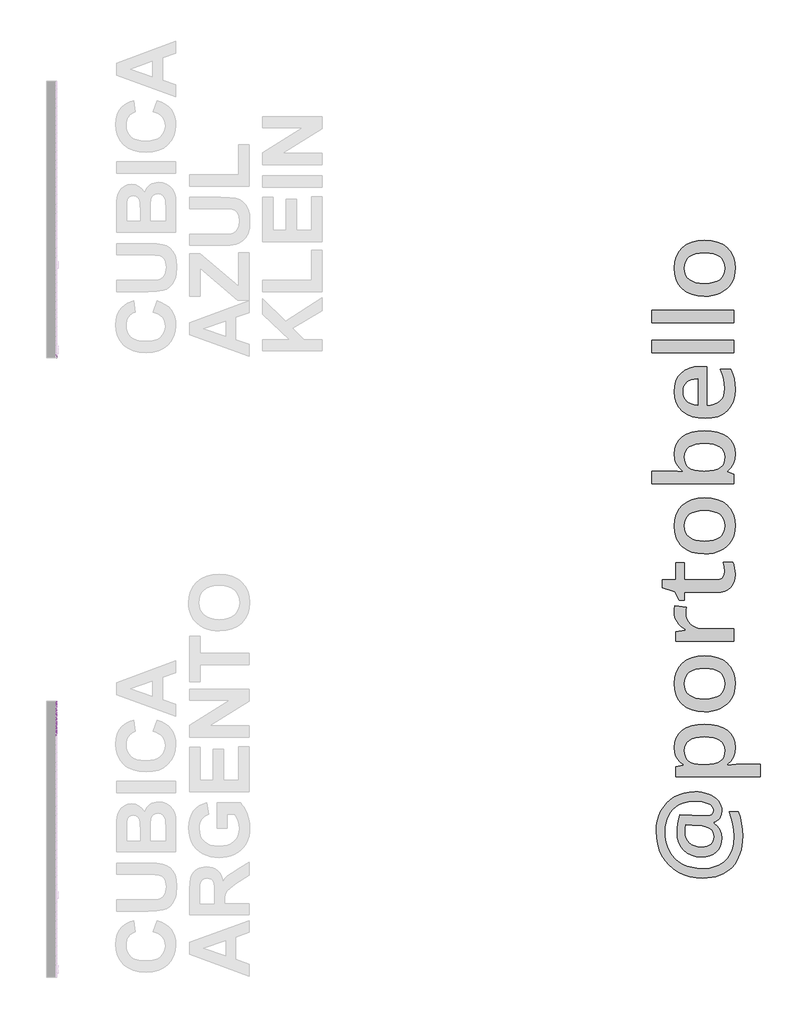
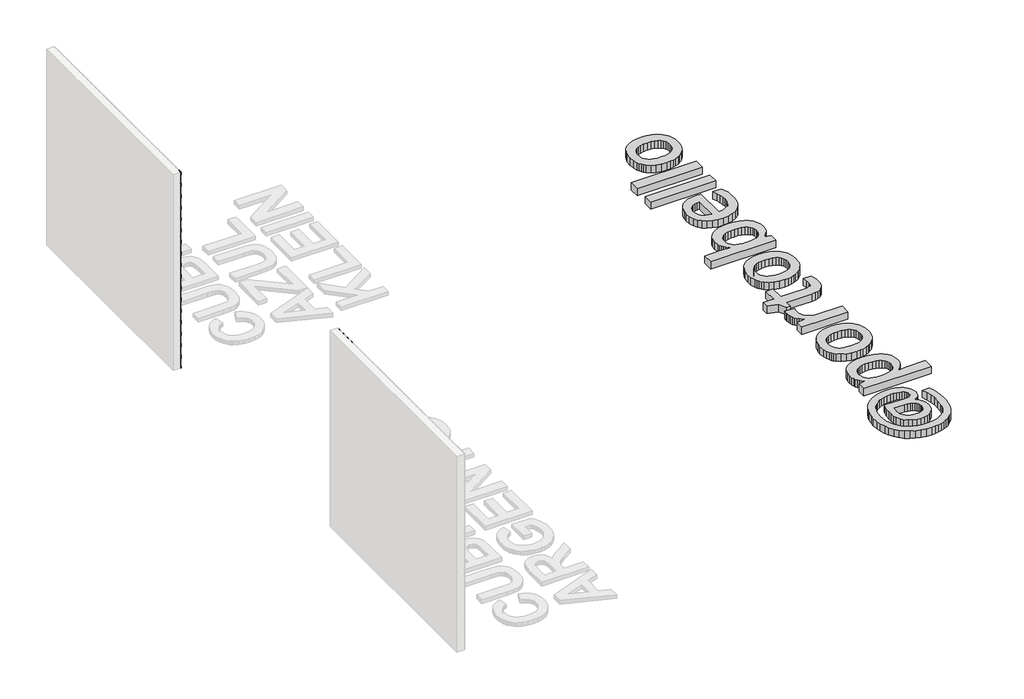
# One storey, part 25 of 121: 80 proxies.
"""IFC4 building model written with IfcOpenShell, lengths in millimetres."""

from ifc_helpers import new_model, si_unit, origin, origin_with_axes, place, context, project, spatial, polyline, outline, extrude, transform, mapped, element, save
from components import generic_models_b2b2c5c1, generic_models_b652511d, generic_models_39246dda, generic_models_5d175859, generic_models_45888c4d, generic_models_65d4feed, generic_models_eac52c18, generic_models_021229c9

model = new_model("IFC4")

# Units and contexts
model_context = context("Model", 3, world=origin())
ifc_project = project(units=[si_unit("LENGTHUNIT", "METRE", prefix="MILLI")], contexts=[model_context])

# Site, building, storey
site = spatial("IfcSite", under=ifc_project)
building = spatial("IfcBuilding", under=site)
storey = spatial("IfcBuildingStorey", under=building, Name="PORTOBELLO - SHOWROOM", Elevation=0.0)

# Proxies
placement = place(None, origin())
generic_models_shape = generic_models_b2b2c5c1(model_context)
element("IfcBuildingElementProxy", 1, Name="PBSHOP - CUBICA AZUL KLEIN 4,8X8,3 : CUBICA AZUL KLEIN - POSIÇÃO 01", ObjectType="PBSHOP - CUBICA AZUL KLEIN 4,8X8,3 : CUBICA AZUL KLEIN - POSIÇÃO 01", at=placement, inside=storey, context=model_context, shape_type="MappedRepresentation", body=[
    mapped(generic_models_shape, transform((150369.5341846, -3.4522544, 39.4221668), x_axis=(0.0, 1.0, 0.0), y_axis=(0.0, 0.0, 1.0), z_axis=(1.0, 0.0, 0.0))),
])
element("IfcBuildingElementProxy", 2, Name="PBSHOP - CUBICA AZUL KLEIN 4,8X8,3 : CUBICA AZUL KLEIN - POSIÇÃO 01", ObjectType="PBSHOP - CUBICA AZUL KLEIN 4,8X8,3 : CUBICA AZUL KLEIN - POSIÇÃO 01", at=placement, inside=storey, context=model_context, shape_type="MappedRepresentation", body=[
    mapped(generic_models_shape, transform((150369.5341846, 87.3870148, 39.4221668), x_axis=(0.0, 1.0, 0.0), y_axis=(0.0, 0.0, 1.0), z_axis=(1.0, 0.0, 0.0))),
])
element("IfcBuildingElementProxy", 3, Name="PBSHOP - CUBICA AZUL KLEIN 4,8X8,3 : CUBICA AZUL KLEIN - POSIÇÃO 01", ObjectType="PBSHOP - CUBICA AZUL KLEIN 4,8X8,3 : CUBICA AZUL KLEIN - POSIÇÃO 01", at=placement, inside=storey, context=model_context, shape_type="MappedRepresentation", body=[
    mapped(generic_models_shape, transform((150369.5341846, 178.2262841, 39.4221668), x_axis=(0.0, 1.0, 0.0), y_axis=(0.0, 0.0, 1.0), z_axis=(1.0, 0.0, 0.0))),
])
element("IfcBuildingElementProxy", 4, Name="PBSHOP - CUBICA AZUL KLEIN 4,8X8,3 : CUBICA AZUL KLEIN - POSIÇÃO 01", ObjectType="PBSHOP - CUBICA AZUL KLEIN 4,8X8,3 : CUBICA AZUL KLEIN - POSIÇÃO 01", at=placement, inside=storey, context=model_context, shape_type="MappedRepresentation", body=[
    mapped(generic_models_shape, transform((150369.5341846, 269.0655533, 39.4221668), x_axis=(0.0, 1.0, 0.0), y_axis=(0.0, 0.0, 1.0), z_axis=(1.0, 0.0, 0.0))),
])
element("IfcBuildingElementProxy", 5, Name="PBSHOP - CUBICA AZUL KLEIN 4,8X8,3 : CUBICA AZUL KLEIN - POSIÇÃO 01", ObjectType="PBSHOP - CUBICA AZUL KLEIN 4,8X8,3 : CUBICA AZUL KLEIN - POSIÇÃO 01", at=placement, inside=storey, context=model_context, shape_type="MappedRepresentation", body=[
    mapped(generic_models_shape, transform((150369.5341846, 359.9048225, 39.4221668), x_axis=(0.0, 1.0, 0.0), y_axis=(0.0, 0.0, 1.0), z_axis=(1.0, 0.0, 0.0))),
])
element("IfcBuildingElementProxy", 6, Name="PBSHOP - CUBICA AZUL KLEIN 4,8X8,3 : CUBICA AZUL KLEIN - POSIÇÃO 01", ObjectType="PBSHOP - CUBICA AZUL KLEIN 4,8X8,3 : CUBICA AZUL KLEIN - POSIÇÃO 01", at=placement, inside=storey, context=model_context, shape_type="MappedRepresentation", body=[
    mapped(generic_models_shape, transform((150369.5341846, 450.7440918, 39.4221668), x_axis=(0.0, 1.0, 0.0), y_axis=(0.0, 0.0, 1.0), z_axis=(1.0, 0.0, 0.0))),
])
element("IfcBuildingElementProxy", 7, Name="PBSHOP - CUBICA AZUL KLEIN 4,8X8,3 : CUBICA AZUL KLEIN - POSIÇÃO 01", ObjectType="PBSHOP - CUBICA AZUL KLEIN 4,8X8,3 : CUBICA AZUL KLEIN - POSIÇÃO 01", at=placement, inside=storey, context=model_context, shape_type="MappedRepresentation", body=[
    mapped(generic_models_shape, transform((150369.5341846, 541.583361, 39.4221668), x_axis=(0.0, 1.0, 0.0), y_axis=(0.0, 0.0, 1.0), z_axis=(1.0, 0.0, 0.0))),
])
element("IfcBuildingElementProxy", 8, Name="PBSHOP - CUBICA AZUL KLEIN 4,8X8,3 : CUBICA AZUL KLEIN - POSIÇÃO 01", ObjectType="PBSHOP - CUBICA AZUL KLEIN 4,8X8,3 : CUBICA AZUL KLEIN - POSIÇÃO 01", at=placement, inside=storey, context=model_context, shape_type="MappedRepresentation", body=[
    mapped(generic_models_shape, transform((150369.5341846, 632.4226303, 39.4221668), x_axis=(0.0, 1.0, 0.0), y_axis=(0.0, 0.0, 1.0), z_axis=(1.0, 0.0, 0.0))),
])
element("IfcBuildingElementProxy", 9, Name="PBSHOP - CUBICA AZUL KLEIN 4,8X8,3 : CUBICA AZUL KLEIN - POSIÇÃO 01", ObjectType="PBSHOP - CUBICA AZUL KLEIN 4,8X8,3 : CUBICA AZUL KLEIN - POSIÇÃO 01", at=placement, inside=storey, context=model_context, shape_type="MappedRepresentation", body=[
    mapped(generic_models_shape, transform((150369.5341846, 723.2618995, 39.4221668), x_axis=(0.0, 1.0, 0.0), y_axis=(0.0, 0.0, 1.0), z_axis=(1.0, 0.0, 0.0))),
])
element("IfcBuildingElementProxy", 10, Name="PBSHOP - CUBICA AZUL KLEIN 4,8X8,3 : CUBICA AZUL KLEIN - POSIÇÃO 01", ObjectType="PBSHOP - CUBICA AZUL KLEIN 4,8X8,3 : CUBICA AZUL KLEIN - POSIÇÃO 01", at=placement, inside=storey, context=model_context, shape_type="MappedRepresentation", body=[
    mapped(generic_models_shape, transform((150369.5341846, 814.1011688, 39.4221668), x_axis=(0.0, 1.0, 0.0), y_axis=(0.0, 0.0, 1.0), z_axis=(1.0, 0.0, 0.0))),
])
element("IfcBuildingElementProxy", 11, Name="PBSHOP - CUBICA AZUL KLEIN 4,8X8,3 : CUBICA AZUL KLEIN - POSIÇÃO 01", ObjectType="PBSHOP - CUBICA AZUL KLEIN 4,8X8,3 : CUBICA AZUL KLEIN - POSIÇÃO 01", at=placement, inside=storey, context=model_context, shape_type="MappedRepresentation", body=[
    mapped(generic_models_shape, transform((150369.5341846, 904.940438, 39.4221668), x_axis=(0.0, 1.0, 0.0), y_axis=(0.0, 0.0, 1.0), z_axis=(1.0, 0.0, 0.0))),
])
element("IfcBuildingElementProxy", 12, Name="PBSHOP - CUBICA AZUL KLEIN 4,8X8,3 : CUBICA AZUL KLEIN - POSIÇÃO 01", ObjectType="PBSHOP - CUBICA AZUL KLEIN 4,8X8,3 : CUBICA AZUL KLEIN - POSIÇÃO 01", at=placement, inside=storey, context=model_context, shape_type="MappedRepresentation", body=[
    mapped(generic_models_shape, transform((150369.5341846, 995.7797073, 39.4221668), x_axis=(0.0, 1.0, 0.0), y_axis=(0.0, 0.0, 1.0), z_axis=(1.0, 0.0, 0.0))),
])
element("IfcBuildingElementProxy", 13, Name="PBSHOP - CUBICA AZUL KLEIN 4,8X8,3 : CUBICA AZUL KLEIN - POSIÇÃO 01", ObjectType="PBSHOP - CUBICA AZUL KLEIN 4,8X8,3 : CUBICA AZUL KLEIN - POSIÇÃO 01", at=placement, inside=storey, context=model_context, shape_type="MappedRepresentation", body=[
    mapped(generic_models_shape, transform((150369.5341846, -3.4522544, 197.2914436), x_axis=(0.0, 1.0, 0.0), y_axis=(0.0, 0.0, 1.0), z_axis=(1.0, 0.0, 0.0))),
])
element("IfcBuildingElementProxy", 14, Name="PBSHOP - CUBICA AZUL KLEIN 4,8X8,3 : CUBICA AZUL KLEIN - POSIÇÃO 01", ObjectType="PBSHOP - CUBICA AZUL KLEIN 4,8X8,3 : CUBICA AZUL KLEIN - POSIÇÃO 01", at=placement, inside=storey, context=model_context, shape_type="MappedRepresentation", body=[
    mapped(generic_models_shape, transform((150369.5341846, -3.4522544, 355.1607203), x_axis=(0.0, 1.0, 0.0), y_axis=(0.0, 0.0, 1.0), z_axis=(1.0, 0.0, 0.0))),
])
element("IfcBuildingElementProxy", 15, Name="PBSHOP - CUBICA AZUL KLEIN 4,8X8,3 : CUBICA AZUL KLEIN - POSIÇÃO 01", ObjectType="PBSHOP - CUBICA AZUL KLEIN 4,8X8,3 : CUBICA AZUL KLEIN - POSIÇÃO 01", at=placement, inside=storey, context=model_context, shape_type="MappedRepresentation", body=[
    mapped(generic_models_shape, transform((150369.5341846, -3.4522544, 513.0299971), x_axis=(0.0, 1.0, 0.0), y_axis=(0.0, 0.0, 1.0), z_axis=(1.0, 0.0, 0.0))),
])
element("IfcBuildingElementProxy", 16, Name="PBSHOP - CUBICA AZUL KLEIN 4,8X8,3 : CUBICA AZUL KLEIN - POSIÇÃO 01", ObjectType="PBSHOP - CUBICA AZUL KLEIN 4,8X8,3 : CUBICA AZUL KLEIN - POSIÇÃO 01", at=placement, inside=storey, context=model_context, shape_type="MappedRepresentation", body=[
    mapped(generic_models_shape, transform((150369.5341846, -3.4522544, 670.8992738), x_axis=(0.0, 1.0, 0.0), y_axis=(0.0, 0.0, 1.0), z_axis=(1.0, 0.0, 0.0))),
])
element("IfcBuildingElementProxy", 17, Name="PBSHOP - CUBICA AZUL KLEIN 4,8X8,3 : CUBICA AZUL KLEIN - POSIÇÃO 01", ObjectType="PBSHOP - CUBICA AZUL KLEIN 4,8X8,3 : CUBICA AZUL KLEIN - POSIÇÃO 01", at=placement, inside=storey, context=model_context, shape_type="MappedRepresentation", body=[
    mapped(generic_models_shape, transform((150369.5341846, -3.4522544, 828.7685506), x_axis=(0.0, 1.0, 0.0), y_axis=(0.0, 0.0, 1.0), z_axis=(1.0, 0.0, 0.0))),
])
element("IfcBuildingElementProxy", 18, Name="PBSHOP - CUBICA AZUL KLEIN 4,8X8,3 : CUBICA AZUL KLEIN - POSIÇÃO 01", ObjectType="PBSHOP - CUBICA AZUL KLEIN 4,8X8,3 : CUBICA AZUL KLEIN - POSIÇÃO 01", at=placement, inside=storey, context=model_context, shape_type="MappedRepresentation", body=[
    mapped(generic_models_shape, transform((150369.5341846, -3.4522544, 986.6378273), x_axis=(0.0, 1.0, 0.0), y_axis=(0.0, 0.0, 1.0), z_axis=(1.0, 0.0, 0.0))),
])
element("IfcBuildingElementProxy", 19, Name="PBSHOP - CUBICA AZUL KLEIN 4,8X8,3 : CUBICA AZUL KLEIN - POSIÇÃO 01", ObjectType="PBSHOP - CUBICA AZUL KLEIN 4,8X8,3 : CUBICA AZUL KLEIN - POSIÇÃO 01", at=placement, inside=storey, context=model_context, shape_type="MappedRepresentation", body=[
    mapped(generic_models_shape, transform((150369.5341846, -3.4522544, 1144.507104), x_axis=(0.0, 1.0, 0.0), y_axis=(0.0, 0.0, 1.0), z_axis=(1.0, 0.0, 0.0))),
])
element("IfcBuildingElementProxy", 20, Name="PBSHOP - CUBICA AZUL KLEIN 4,8X8,3 : CUBICA AZUL KLEIN - POSIÇÃO 01", ObjectType="PBSHOP - CUBICA AZUL KLEIN 4,8X8,3 : CUBICA AZUL KLEIN - POSIÇÃO 01", at=placement, inside=storey, context=model_context, shape_type="MappedRepresentation", body=[
    mapped(generic_models_shape, transform((150369.5341846, -3.4522544, 1302.3763808), x_axis=(0.0, 1.0, 0.0), y_axis=(0.0, 0.0, 1.0), z_axis=(1.0, 0.0, 0.0))),
])
element("IfcBuildingElementProxy", 21, Name="PBSHOP - CUBICA AZUL KLEIN 4,8X8,3 : CUBICA AZUL KLEIN - POSIÇÃO 01", ObjectType="PBSHOP - CUBICA AZUL KLEIN 4,8X8,3 : CUBICA AZUL KLEIN - POSIÇÃO 01", at=placement, inside=storey, context=model_context, shape_type="MappedRepresentation", body=[
    mapped(generic_models_shape, transform((150369.5341846, -3.4522544, 1460.2456575), x_axis=(0.0, 1.0, 0.0), y_axis=(0.0, 0.0, 1.0), z_axis=(1.0, 0.0, 0.0))),
])
element("IfcBuildingElementProxy", 22, Name="PBSHOP - CUBICA AZUL KLEIN 4,8X8,3 : CUBICA AZUL KLEIN - POSIÇÃO 01", ObjectType="PBSHOP - CUBICA AZUL KLEIN 4,8X8,3 : CUBICA AZUL KLEIN - POSIÇÃO 01", at=placement, inside=storey, context=model_context, shape_type="MappedRepresentation", body=[
    mapped(generic_models_shape, transform((150369.5341846, -3.4522544, 1618.1149343), x_axis=(0.0, 1.0, 0.0), y_axis=(0.0, 0.0, 1.0), z_axis=(1.0, 0.0, 0.0))),
])
element("IfcBuildingElementProxy", 23, Name="PBSHOP - CUBICA AZUL KLEIN 4,8X8,3 : CUBICA AZUL KLEIN - POSIÇÃO 01", ObjectType="PBSHOP - CUBICA AZUL KLEIN 4,8X8,3 : CUBICA AZUL KLEIN - POSIÇÃO 01", at=placement, inside=storey, context=model_context, shape_type="MappedRepresentation", body=[
    mapped(generic_models_shape, transform((150369.5341846, -3.4522544, 1775.984211), x_axis=(0.0, 1.0, 0.0), y_axis=(0.0, 0.0, 1.0), z_axis=(1.0, 0.0, 0.0))),
])
element("IfcBuildingElementProxy", 24, Name="PBSHOP - CUBICA AZUL KLEIN 4,8X8,3 : CUBICA AZUL KLEIN - POSIÇÃO 01", ObjectType="PBSHOP - CUBICA AZUL KLEIN 4,8X8,3 : CUBICA AZUL KLEIN - POSIÇÃO 01", at=placement, inside=storey, context=model_context, shape_type="MappedRepresentation", body=[
    mapped(generic_models_shape, transform((150369.5341846, -3.4522544, 1933.8534878), x_axis=(0.0, 1.0, 0.0), y_axis=(0.0, 0.0, 1.0), z_axis=(1.0, 0.0, 0.0))),
])
element("IfcBuildingElementProxy", 25, Name="PBSHOP - CUBICA AZUL KLEIN 4,8X8,3 : CUBICA AZUL KLEIN - POSIÇÃO 01", ObjectType="PBSHOP - CUBICA AZUL KLEIN 4,8X8,3 : CUBICA AZUL KLEIN - POSIÇÃO 01", at=placement, inside=storey, context=model_context, shape_type="MappedRepresentation", body=[
    mapped(generic_models_shape, transform((150369.5341846, -3.4522544, 2091.7227645), x_axis=(0.0, 1.0, 0.0), y_axis=(0.0, 0.0, 1.0), z_axis=(1.0, 0.0, 0.0))),
])
element("IfcBuildingElementProxy", 26, Name="PBSHOP - CUBICA AZUL KLEIN 4,8X8,3 : CUBICA AZUL KLEIN - POSIÇÃO 01", ObjectType="PBSHOP - CUBICA AZUL KLEIN 4,8X8,3 : CUBICA AZUL KLEIN - POSIÇÃO 01", at=placement, inside=storey, context=model_context, shape_type="MappedRepresentation", body=[
    mapped(generic_models_shape, transform((150369.5341846, -3.4522544, 2249.5920413), x_axis=(0.0, 1.0, 0.0), y_axis=(0.0, 0.0, 1.0), z_axis=(1.0, 0.0, 0.0))),
])
element("IfcBuildingElementProxy", 27, Name="PBSHOP - CUBICA AZUL KLEIN 4,8X8,3 : CUBICA AZUL KLEIN - POSIÇÃO 01", ObjectType="PBSHOP - CUBICA AZUL KLEIN 4,8X8,3 : CUBICA AZUL KLEIN - POSIÇÃO 01", at=placement, inside=storey, context=model_context, shape_type="MappedRepresentation", body=[
    mapped(generic_models_shape, transform((150369.5341846, -3.4522544, 2407.461318), x_axis=(0.0, 1.0, 0.0), y_axis=(0.0, 0.0, 1.0), z_axis=(1.0, 0.0, 0.0))),
])
element("IfcBuildingElementProxy", 28, Name="PBSHOP - CUBICA AZUL KLEIN 4,8X8,3 : CUBICA AZUL KLEIN - POSIÇÃO 01", ObjectType="PBSHOP - CUBICA AZUL KLEIN 4,8X8,3 : CUBICA AZUL KLEIN - POSIÇÃO 01", at=placement, inside=storey, context=model_context, shape_type="MappedRepresentation", body=[
    mapped(generic_models_shape, transform((150369.5341846, -3.4522544, 2565.3305948), x_axis=(0.0, 1.0, 0.0), y_axis=(0.0, 0.0, 1.0), z_axis=(1.0, 0.0, 0.0))),
])
generic_models_2_shape = generic_models_b652511d(model_context)
element("IfcBuildingElementProxy", 29, Name="PBSHOP - CUBICA ARGENTO 4,8X8,3 : CUBICA ARGENTO - POSIÇÃO 03", ObjectType="PBSHOP - CUBICA ARGENTO 4,8X8,3 : CUBICA ARGENTO - POSIÇÃO 03", at=placement, inside=storey, context=model_context, shape_type="MappedRepresentation", body=[
    mapped(generic_models_2_shape, transform((150369.5341846, -3882.6603737, 2683.6913419), x_axis=(0.0, 1.0, 0.0), y_axis=(0.0, 0.0, 1.0), z_axis=(1.0, 0.0, 0.0))),
])
element("IfcBuildingElementProxy", 30, Name="PBSHOP - CUBICA ARGENTO 4,8X8,3 : CUBICA ARGENTO - POSIÇÃO 03", ObjectType="PBSHOP - CUBICA ARGENTO 4,8X8,3 : CUBICA ARGENTO - POSIÇÃO 03", at=placement, inside=storey, context=model_context, shape_type="MappedRepresentation", body=[
    mapped(generic_models_2_shape, transform((150369.5341846, -3791.8211045, 2683.6913419), x_axis=(0.0, 1.0, 0.0), y_axis=(0.0, 0.0, 1.0), z_axis=(1.0, 0.0, 0.0))),
])
element("IfcBuildingElementProxy", 31, Name="PBSHOP - CUBICA ARGENTO 4,8X8,3 : CUBICA ARGENTO - POSIÇÃO 03", ObjectType="PBSHOP - CUBICA ARGENTO 4,8X8,3 : CUBICA ARGENTO - POSIÇÃO 03", at=placement, inside=storey, context=model_context, shape_type="MappedRepresentation", body=[
    mapped(generic_models_2_shape, transform((150369.5341846, -3700.9818353, 2683.6913419), x_axis=(0.0, 1.0, 0.0), y_axis=(0.0, 0.0, 1.0), z_axis=(1.0, 0.0, 0.0))),
])
generic_models_3_shape = generic_models_39246dda(model_context)
element("IfcBuildingElementProxy", 32, Name="PBSHOP - CUBICA ARGENTO 4,8X8,3 : CUBICA ARGENTO - POSIÇÃO 03", ObjectType="PBSHOP - CUBICA ARGENTO 4,8X8,3 : CUBICA ARGENTO - POSIÇÃO 03", at=placement, inside=storey, context=model_context, shape_type="MappedRepresentation", body=[
    mapped(generic_models_3_shape, transform((150369.5341846, -3610.142566, 2683.6913419), x_axis=(0.0, 1.0, 0.0), y_axis=(0.0, 0.0, 1.0), z_axis=(1.0, 0.0, 0.0))),
])
generic_models_4_shape = generic_models_5d175859(model_context)
element("IfcBuildingElementProxy", 33, Name="PBSHOP - CUBICA AZUL KLEIN 4,8X8,3 : CUBICA AZUL KLEIN - POSIÇÃO 01", ObjectType="PBSHOP - CUBICA AZUL KLEIN 4,8X8,3 : CUBICA AZUL KLEIN - POSIÇÃO 01", at=placement, inside=storey, context=model_context, shape_type="MappedRepresentation", body=[
    mapped(generic_models_4_shape, transform((150369.5341846, 41.9716985, 39.4221668), x_axis=(0.0, -1.0, 0.0), y_axis=(0.0, 0.0, -1.0), z_axis=(1.0, 0.0, 0.0))),
])
element("IfcBuildingElementProxy", 34, Name="PBSHOP - CUBICA AZUL KLEIN 4,8X8,3 : CUBICA AZUL KLEIN - POSIÇÃO 01", ObjectType="PBSHOP - CUBICA AZUL KLEIN 4,8X8,3 : CUBICA AZUL KLEIN - POSIÇÃO 01", at=placement, inside=storey, context=model_context, shape_type="MappedRepresentation", body=[
    mapped(generic_models_4_shape, transform((150369.5341846, 132.8109678, 39.4221668), x_axis=(0.0, -1.0, 0.0), y_axis=(0.0, 0.0, -1.0), z_axis=(1.0, 0.0, 0.0))),
])
element("IfcBuildingElementProxy", 35, Name="PBSHOP - CUBICA AZUL KLEIN 4,8X8,3 : CUBICA AZUL KLEIN - POSIÇÃO 01", ObjectType="PBSHOP - CUBICA AZUL KLEIN 4,8X8,3 : CUBICA AZUL KLEIN - POSIÇÃO 01", at=placement, inside=storey, context=model_context, shape_type="MappedRepresentation", body=[
    mapped(generic_models_4_shape, transform((150369.5341846, 223.650237, 39.4221668), x_axis=(0.0, -1.0, 0.0), y_axis=(0.0, 0.0, -1.0), z_axis=(1.0, 0.0, 0.0))),
])
element("IfcBuildingElementProxy", 36, Name="PBSHOP - CUBICA AZUL KLEIN 4,8X8,3 : CUBICA AZUL KLEIN - POSIÇÃO 01", ObjectType="PBSHOP - CUBICA AZUL KLEIN 4,8X8,3 : CUBICA AZUL KLEIN - POSIÇÃO 01", at=placement, inside=storey, context=model_context, shape_type="MappedRepresentation", body=[
    mapped(generic_models_4_shape, transform((150369.5341846, 314.4895063, 39.4221668), x_axis=(0.0, -1.0, 0.0), y_axis=(0.0, 0.0, -1.0), z_axis=(1.0, 0.0, 0.0))),
])
element("IfcBuildingElementProxy", 37, Name="PBSHOP - CUBICA AZUL KLEIN 4,8X8,3 : CUBICA AZUL KLEIN - POSIÇÃO 01", ObjectType="PBSHOP - CUBICA AZUL KLEIN 4,8X8,3 : CUBICA AZUL KLEIN - POSIÇÃO 01", at=placement, inside=storey, context=model_context, shape_type="MappedRepresentation", body=[
    mapped(generic_models_4_shape, transform((150369.5341846, 405.3287755, 39.4221668), x_axis=(0.0, -1.0, 0.0), y_axis=(0.0, 0.0, -1.0), z_axis=(1.0, 0.0, 0.0))),
])
element("IfcBuildingElementProxy", 38, Name="PBSHOP - CUBICA AZUL KLEIN 4,8X8,3 : CUBICA AZUL KLEIN - POSIÇÃO 01", ObjectType="PBSHOP - CUBICA AZUL KLEIN 4,8X8,3 : CUBICA AZUL KLEIN - POSIÇÃO 01", at=placement, inside=storey, context=model_context, shape_type="MappedRepresentation", body=[
    mapped(generic_models_4_shape, transform((150369.5341846, 496.1680447, 39.4221668), x_axis=(0.0, -1.0, 0.0), y_axis=(0.0, 0.0, -1.0), z_axis=(1.0, 0.0, 0.0))),
])
element("IfcBuildingElementProxy", 39, Name="PBSHOP - CUBICA AZUL KLEIN 4,8X8,3 : CUBICA AZUL KLEIN - POSIÇÃO 01", ObjectType="PBSHOP - CUBICA AZUL KLEIN 4,8X8,3 : CUBICA AZUL KLEIN - POSIÇÃO 01", at=placement, inside=storey, context=model_context, shape_type="MappedRepresentation", body=[
    mapped(generic_models_4_shape, transform((150369.5341846, 587.007314, 39.4221668), x_axis=(0.0, -1.0, 0.0), y_axis=(0.0, 0.0, -1.0), z_axis=(1.0, 0.0, 0.0))),
])
element("IfcBuildingElementProxy", 40, Name="PBSHOP - CUBICA AZUL KLEIN 4,8X8,3 : CUBICA AZUL KLEIN - POSIÇÃO 01", ObjectType="PBSHOP - CUBICA AZUL KLEIN 4,8X8,3 : CUBICA AZUL KLEIN - POSIÇÃO 01", at=placement, inside=storey, context=model_context, shape_type="MappedRepresentation", body=[
    mapped(generic_models_4_shape, transform((150369.5341846, 677.8465832, 39.4221668), x_axis=(0.0, -1.0, 0.0), y_axis=(0.0, 0.0, -1.0), z_axis=(1.0, 0.0, 0.0))),
])
element("IfcBuildingElementProxy", 41, Name="PBSHOP - CUBICA AZUL KLEIN 4,8X8,3 : CUBICA AZUL KLEIN - POSIÇÃO 01", ObjectType="PBSHOP - CUBICA AZUL KLEIN 4,8X8,3 : CUBICA AZUL KLEIN - POSIÇÃO 01", at=placement, inside=storey, context=model_context, shape_type="MappedRepresentation", body=[
    mapped(generic_models_4_shape, transform((150369.5341846, 768.6858525, 39.4221668), x_axis=(0.0, -1.0, 0.0), y_axis=(0.0, 0.0, -1.0), z_axis=(1.0, 0.0, 0.0))),
])
element("IfcBuildingElementProxy", 42, Name="PBSHOP - CUBICA AZUL KLEIN 4,8X8,3 : CUBICA AZUL KLEIN - POSIÇÃO 01", ObjectType="PBSHOP - CUBICA AZUL KLEIN 4,8X8,3 : CUBICA AZUL KLEIN - POSIÇÃO 01", at=placement, inside=storey, context=model_context, shape_type="MappedRepresentation", body=[
    mapped(generic_models_4_shape, transform((150369.5341846, 859.5251217, 39.4221668), x_axis=(0.0, -1.0, 0.0), y_axis=(0.0, 0.0, -1.0), z_axis=(1.0, 0.0, 0.0))),
])
element("IfcBuildingElementProxy", 43, Name="PBSHOP - CUBICA AZUL KLEIN 4,8X8,3 : CUBICA AZUL KLEIN - POSIÇÃO 01", ObjectType="PBSHOP - CUBICA AZUL KLEIN 4,8X8,3 : CUBICA AZUL KLEIN - POSIÇÃO 01", at=placement, inside=storey, context=model_context, shape_type="MappedRepresentation", body=[
    mapped(generic_models_4_shape, transform((150369.5341846, 950.364391, 39.4221668), x_axis=(0.0, -1.0, 0.0), y_axis=(0.0, 0.0, -1.0), z_axis=(1.0, 0.0, 0.0))),
])
element("IfcBuildingElementProxy", 44, Name="PBSHOP - CUBICA AZUL KLEIN 4,8X8,3 : CUBICA AZUL KLEIN - POSIÇÃO 01", ObjectType="PBSHOP - CUBICA AZUL KLEIN 4,8X8,3 : CUBICA AZUL KLEIN - POSIÇÃO 01", at=placement, inside=storey, context=model_context, shape_type="MappedRepresentation", body=[
    mapped(generic_models_4_shape, transform((150369.5341846, -3.4479361, 118.3568052), x_axis=(0.0, -1.0, 0.0), y_axis=(0.0, 0.0, -1.0), z_axis=(1.0, 0.0, 0.0))),
])
element("IfcBuildingElementProxy", 45, Name="PBSHOP - CUBICA AZUL KLEIN 4,8X8,3 : CUBICA AZUL KLEIN - POSIÇÃO 01", ObjectType="PBSHOP - CUBICA AZUL KLEIN 4,8X8,3 : CUBICA AZUL KLEIN - POSIÇÃO 01", at=placement, inside=storey, context=model_context, shape_type="MappedRepresentation", body=[
    mapped(generic_models_4_shape, transform((150369.5341846, -3.4479361, 276.2260819), x_axis=(0.0, -1.0, 0.0), y_axis=(0.0, 0.0, -1.0), z_axis=(1.0, 0.0, 0.0))),
])
element("IfcBuildingElementProxy", 46, Name="PBSHOP - CUBICA AZUL KLEIN 4,8X8,3 : CUBICA AZUL KLEIN - POSIÇÃO 01", ObjectType="PBSHOP - CUBICA AZUL KLEIN 4,8X8,3 : CUBICA AZUL KLEIN - POSIÇÃO 01", at=placement, inside=storey, context=model_context, shape_type="MappedRepresentation", body=[
    mapped(generic_models_4_shape, transform((150369.5341846, -3.4479361, 434.0953587), x_axis=(0.0, -1.0, 0.0), y_axis=(0.0, 0.0, -1.0), z_axis=(1.0, 0.0, 0.0))),
])
element("IfcBuildingElementProxy", 47, Name="PBSHOP - CUBICA AZUL KLEIN 4,8X8,3 : CUBICA AZUL KLEIN - POSIÇÃO 01", ObjectType="PBSHOP - CUBICA AZUL KLEIN 4,8X8,3 : CUBICA AZUL KLEIN - POSIÇÃO 01", at=placement, inside=storey, context=model_context, shape_type="MappedRepresentation", body=[
    mapped(generic_models_4_shape, transform((150369.5341846, -3.4479361, 591.9646354), x_axis=(0.0, -1.0, 0.0), y_axis=(0.0, 0.0, -1.0), z_axis=(1.0, 0.0, 0.0))),
])
element("IfcBuildingElementProxy", 48, Name="PBSHOP - CUBICA AZUL KLEIN 4,8X8,3 : CUBICA AZUL KLEIN - POSIÇÃO 01", ObjectType="PBSHOP - CUBICA AZUL KLEIN 4,8X8,3 : CUBICA AZUL KLEIN - POSIÇÃO 01", at=placement, inside=storey, context=model_context, shape_type="MappedRepresentation", body=[
    mapped(generic_models_4_shape, transform((150369.5341846, -3.4479361, 749.8339122), x_axis=(0.0, -1.0, 0.0), y_axis=(0.0, 0.0, -1.0), z_axis=(1.0, 0.0, 0.0))),
])
element("IfcBuildingElementProxy", 49, Name="PBSHOP - CUBICA AZUL KLEIN 4,8X8,3 : CUBICA AZUL KLEIN - POSIÇÃO 01", ObjectType="PBSHOP - CUBICA AZUL KLEIN 4,8X8,3 : CUBICA AZUL KLEIN - POSIÇÃO 01", at=placement, inside=storey, context=model_context, shape_type="MappedRepresentation", body=[
    mapped(generic_models_4_shape, transform((150369.5341846, -3.4479361, 907.7031889), x_axis=(0.0, -1.0, 0.0), y_axis=(0.0, 0.0, -1.0), z_axis=(1.0, 0.0, 0.0))),
])
element("IfcBuildingElementProxy", 50, Name="PBSHOP - CUBICA AZUL KLEIN 4,8X8,3 : CUBICA AZUL KLEIN - POSIÇÃO 01", ObjectType="PBSHOP - CUBICA AZUL KLEIN 4,8X8,3 : CUBICA AZUL KLEIN - POSIÇÃO 01", at=placement, inside=storey, context=model_context, shape_type="MappedRepresentation", body=[
    mapped(generic_models_4_shape, transform((150369.5341846, -3.4479361, 1065.5724657), x_axis=(0.0, -1.0, 0.0), y_axis=(0.0, 0.0, -1.0), z_axis=(1.0, 0.0, 0.0))),
])
element("IfcBuildingElementProxy", 51, Name="PBSHOP - CUBICA AZUL KLEIN 4,8X8,3 : CUBICA AZUL KLEIN - POSIÇÃO 01", ObjectType="PBSHOP - CUBICA AZUL KLEIN 4,8X8,3 : CUBICA AZUL KLEIN - POSIÇÃO 01", at=placement, inside=storey, context=model_context, shape_type="MappedRepresentation", body=[
    mapped(generic_models_4_shape, transform((150369.5341846, -3.4479361, 1223.4417424), x_axis=(0.0, -1.0, 0.0), y_axis=(0.0, 0.0, -1.0), z_axis=(1.0, 0.0, 0.0))),
])
element("IfcBuildingElementProxy", 52, Name="PBSHOP - CUBICA AZUL KLEIN 4,8X8,3 : CUBICA AZUL KLEIN - POSIÇÃO 01", ObjectType="PBSHOP - CUBICA AZUL KLEIN 4,8X8,3 : CUBICA AZUL KLEIN - POSIÇÃO 01", at=placement, inside=storey, context=model_context, shape_type="MappedRepresentation", body=[
    mapped(generic_models_4_shape, transform((150369.5341846, -3.4479361, 1381.3110192), x_axis=(0.0, -1.0, 0.0), y_axis=(0.0, 0.0, -1.0), z_axis=(1.0, 0.0, 0.0))),
])
element("IfcBuildingElementProxy", 53, Name="PBSHOP - CUBICA AZUL KLEIN 4,8X8,3 : CUBICA AZUL KLEIN - POSIÇÃO 01", ObjectType="PBSHOP - CUBICA AZUL KLEIN 4,8X8,3 : CUBICA AZUL KLEIN - POSIÇÃO 01", at=placement, inside=storey, context=model_context, shape_type="MappedRepresentation", body=[
    mapped(generic_models_4_shape, transform((150369.5341846, -3.4479361, 1539.1802959), x_axis=(0.0, -1.0, 0.0), y_axis=(0.0, 0.0, -1.0), z_axis=(1.0, 0.0, 0.0))),
])
element("IfcBuildingElementProxy", 54, Name="PBSHOP - CUBICA AZUL KLEIN 4,8X8,3 : CUBICA AZUL KLEIN - POSIÇÃO 01", ObjectType="PBSHOP - CUBICA AZUL KLEIN 4,8X8,3 : CUBICA AZUL KLEIN - POSIÇÃO 01", at=placement, inside=storey, context=model_context, shape_type="MappedRepresentation", body=[
    mapped(generic_models_4_shape, transform((150369.5341846, -3.4479361, 1697.0495727), x_axis=(0.0, -1.0, 0.0), y_axis=(0.0, 0.0, -1.0), z_axis=(1.0, 0.0, 0.0))),
])
element("IfcBuildingElementProxy", 55, Name="PBSHOP - CUBICA AZUL KLEIN 4,8X8,3 : CUBICA AZUL KLEIN - POSIÇÃO 01", ObjectType="PBSHOP - CUBICA AZUL KLEIN 4,8X8,3 : CUBICA AZUL KLEIN - POSIÇÃO 01", at=placement, inside=storey, context=model_context, shape_type="MappedRepresentation", body=[
    mapped(generic_models_4_shape, transform((150369.5341846, -3.4479361, 1854.9188494), x_axis=(0.0, -1.0, 0.0), y_axis=(0.0, 0.0, -1.0), z_axis=(1.0, 0.0, 0.0))),
])
element("IfcBuildingElementProxy", 56, Name="PBSHOP - CUBICA AZUL KLEIN 4,8X8,3 : CUBICA AZUL KLEIN - POSIÇÃO 01", ObjectType="PBSHOP - CUBICA AZUL KLEIN 4,8X8,3 : CUBICA AZUL KLEIN - POSIÇÃO 01", at=placement, inside=storey, context=model_context, shape_type="MappedRepresentation", body=[
    mapped(generic_models_4_shape, transform((150369.5341846, -3.4479361, 2012.7881262), x_axis=(0.0, -1.0, 0.0), y_axis=(0.0, 0.0, -1.0), z_axis=(1.0, 0.0, 0.0))),
])
element("IfcBuildingElementProxy", 57, Name="PBSHOP - CUBICA AZUL KLEIN 4,8X8,3 : CUBICA AZUL KLEIN - POSIÇÃO 01", ObjectType="PBSHOP - CUBICA AZUL KLEIN 4,8X8,3 : CUBICA AZUL KLEIN - POSIÇÃO 01", at=placement, inside=storey, context=model_context, shape_type="MappedRepresentation", body=[
    mapped(generic_models_4_shape, transform((150369.5341846, -3.4479361, 2170.6574029), x_axis=(0.0, -1.0, 0.0), y_axis=(0.0, 0.0, -1.0), z_axis=(1.0, 0.0, 0.0))),
])
element("IfcBuildingElementProxy", 58, Name="PBSHOP - CUBICA AZUL KLEIN 4,8X8,3 : CUBICA AZUL KLEIN - POSIÇÃO 01", ObjectType="PBSHOP - CUBICA AZUL KLEIN 4,8X8,3 : CUBICA AZUL KLEIN - POSIÇÃO 01", at=placement, inside=storey, context=model_context, shape_type="MappedRepresentation", body=[
    mapped(generic_models_4_shape, transform((150369.5341846, -3.4479361, 2328.5266797), x_axis=(0.0, -1.0, 0.0), y_axis=(0.0, 0.0, -1.0), z_axis=(1.0, 0.0, 0.0))),
])
element("IfcBuildingElementProxy", 59, Name="PBSHOP - CUBICA AZUL KLEIN 4,8X8,3 : CUBICA AZUL KLEIN - POSIÇÃO 01", ObjectType="PBSHOP - CUBICA AZUL KLEIN 4,8X8,3 : CUBICA AZUL KLEIN - POSIÇÃO 01", at=placement, inside=storey, context=model_context, shape_type="MappedRepresentation", body=[
    mapped(generic_models_4_shape, transform((150369.5341846, -3.4479361, 2486.3959564), x_axis=(0.0, -1.0, 0.0), y_axis=(0.0, 0.0, -1.0), z_axis=(1.0, 0.0, 0.0))),
])
element("IfcBuildingElementProxy", 60, Name="PBSHOP - CUBICA AZUL KLEIN 4,8X8,3 : CUBICA AZUL KLEIN - POSIÇÃO 01", ObjectType="PBSHOP - CUBICA AZUL KLEIN 4,8X8,3 : CUBICA AZUL KLEIN - POSIÇÃO 01", at=placement, inside=storey, context=model_context, shape_type="MappedRepresentation", body=[
    mapped(generic_models_4_shape, transform((150369.5341846, -3.4479361, 2644.2652332), x_axis=(0.0, -1.0, 0.0), y_axis=(0.0, 0.0, -1.0), z_axis=(1.0, 0.0, 0.0))),
])
generic_models_5_shape = generic_models_45888c4d(model_context)
element("IfcBuildingElementProxy", 61, Name="PBSHOP - CUBICA AZUL KLEIN 4,8X8,3 : CUBICA AZUL KLEIN - POSIÇÃO 03", ObjectType="PBSHOP - CUBICA AZUL KLEIN 4,8X8,3 : CUBICA AZUL KLEIN - POSIÇÃO 03", at=placement, inside=storey, context=model_context, shape_type="MappedRepresentation", body=[
    mapped(generic_models_5_shape, transform((150369.5341846, -26.1599126, 157.7829139), x_axis=(0.0, 1.0, 0.0), y_axis=(0.0, 0.0, 1.0), z_axis=(1.0, 0.0, 0.0))),
])
element("IfcBuildingElementProxy", 62, Name="PBSHOP - CUBICA AZUL KLEIN 4,8X8,3 : CUBICA AZUL KLEIN - POSIÇÃO 03", ObjectType="PBSHOP - CUBICA AZUL KLEIN 4,8X8,3 : CUBICA AZUL KLEIN - POSIÇÃO 03", at=placement, inside=storey, context=model_context, shape_type="MappedRepresentation", body=[
    mapped(generic_models_5_shape, transform((150369.5341846, -26.1599126, 315.6521907), x_axis=(0.0, 1.0, 0.0), y_axis=(0.0, 0.0, 1.0), z_axis=(1.0, 0.0, 0.0))),
])
element("IfcBuildingElementProxy", 63, Name="PBSHOP - CUBICA AZUL KLEIN 4,8X8,3 : CUBICA AZUL KLEIN - POSIÇÃO 03", ObjectType="PBSHOP - CUBICA AZUL KLEIN 4,8X8,3 : CUBICA AZUL KLEIN - POSIÇÃO 03", at=placement, inside=storey, context=model_context, shape_type="MappedRepresentation", body=[
    mapped(generic_models_5_shape, transform((150369.5341846, -26.1599126, 473.5214674), x_axis=(0.0, 1.0, 0.0), y_axis=(0.0, 0.0, 1.0), z_axis=(1.0, 0.0, 0.0))),
])
element("IfcBuildingElementProxy", 64, Name="PBSHOP - CUBICA AZUL KLEIN 4,8X8,3 : CUBICA AZUL KLEIN - POSIÇÃO 03", ObjectType="PBSHOP - CUBICA AZUL KLEIN 4,8X8,3 : CUBICA AZUL KLEIN - POSIÇÃO 03", at=placement, inside=storey, context=model_context, shape_type="MappedRepresentation", body=[
    mapped(generic_models_5_shape, transform((150369.5341846, -26.1599126, 631.3907442), x_axis=(0.0, 1.0, 0.0), y_axis=(0.0, 0.0, 1.0), z_axis=(1.0, 0.0, 0.0))),
])
element("IfcBuildingElementProxy", 65, Name="PBSHOP - CUBICA AZUL KLEIN 4,8X8,3 : CUBICA AZUL KLEIN - POSIÇÃO 03", ObjectType="PBSHOP - CUBICA AZUL KLEIN 4,8X8,3 : CUBICA AZUL KLEIN - POSIÇÃO 03", at=placement, inside=storey, context=model_context, shape_type="MappedRepresentation", body=[
    mapped(generic_models_5_shape, transform((150369.5341846, -26.1599126, 789.2600209), x_axis=(0.0, 1.0, 0.0), y_axis=(0.0, 0.0, 1.0), z_axis=(1.0, 0.0, 0.0))),
])
element("IfcBuildingElementProxy", 66, Name="PBSHOP - CUBICA AZUL KLEIN 4,8X8,3 : CUBICA AZUL KLEIN - POSIÇÃO 03", ObjectType="PBSHOP - CUBICA AZUL KLEIN 4,8X8,3 : CUBICA AZUL KLEIN - POSIÇÃO 03", at=placement, inside=storey, context=model_context, shape_type="MappedRepresentation", body=[
    mapped(generic_models_5_shape, transform((150369.5341846, -26.1599126, 947.1292977), x_axis=(0.0, 1.0, 0.0), y_axis=(0.0, 0.0, 1.0), z_axis=(1.0, 0.0, 0.0))),
])
element("IfcBuildingElementProxy", 67, Name="PBSHOP - CUBICA AZUL KLEIN 4,8X8,3 : CUBICA AZUL KLEIN - POSIÇÃO 03", ObjectType="PBSHOP - CUBICA AZUL KLEIN 4,8X8,3 : CUBICA AZUL KLEIN - POSIÇÃO 03", at=placement, inside=storey, context=model_context, shape_type="MappedRepresentation", body=[
    mapped(generic_models_5_shape, transform((150369.5341846, -26.1599126, 1104.9985744), x_axis=(0.0, 1.0, 0.0), y_axis=(0.0, 0.0, 1.0), z_axis=(1.0, 0.0, 0.0))),
])
element("IfcBuildingElementProxy", 68, Name="PBSHOP - CUBICA AZUL KLEIN 4,8X8,3 : CUBICA AZUL KLEIN - POSIÇÃO 03", ObjectType="PBSHOP - CUBICA AZUL KLEIN 4,8X8,3 : CUBICA AZUL KLEIN - POSIÇÃO 03", at=placement, inside=storey, context=model_context, shape_type="MappedRepresentation", body=[
    mapped(generic_models_5_shape, transform((150369.5341846, -26.1599126, 1262.8678512), x_axis=(0.0, 1.0, 0.0), y_axis=(0.0, 0.0, 1.0), z_axis=(1.0, 0.0, 0.0))),
])
element("IfcBuildingElementProxy", 69, Name="PBSHOP - CUBICA AZUL KLEIN 4,8X8,3 : CUBICA AZUL KLEIN - POSIÇÃO 03", ObjectType="PBSHOP - CUBICA AZUL KLEIN 4,8X8,3 : CUBICA AZUL KLEIN - POSIÇÃO 03", at=placement, inside=storey, context=model_context, shape_type="MappedRepresentation", body=[
    mapped(generic_models_5_shape, transform((150369.5341846, -26.1599126, 1420.7371279), x_axis=(0.0, 1.0, 0.0), y_axis=(0.0, 0.0, 1.0), z_axis=(1.0, 0.0, 0.0))),
])
element("IfcBuildingElementProxy", 70, Name="PBSHOP - CUBICA AZUL KLEIN 4,8X8,3 : CUBICA AZUL KLEIN - POSIÇÃO 03", ObjectType="PBSHOP - CUBICA AZUL KLEIN 4,8X8,3 : CUBICA AZUL KLEIN - POSIÇÃO 03", at=placement, inside=storey, context=model_context, shape_type="MappedRepresentation", body=[
    mapped(generic_models_5_shape, transform((150369.5341846, -26.1599126, 1578.6064047), x_axis=(0.0, 1.0, 0.0), y_axis=(0.0, 0.0, 1.0), z_axis=(1.0, 0.0, 0.0))),
])
element("IfcBuildingElementProxy", 71, Name="PBSHOP - CUBICA AZUL KLEIN 4,8X8,3 : CUBICA AZUL KLEIN - POSIÇÃO 03", ObjectType="PBSHOP - CUBICA AZUL KLEIN 4,8X8,3 : CUBICA AZUL KLEIN - POSIÇÃO 03", at=placement, inside=storey, context=model_context, shape_type="MappedRepresentation", body=[
    mapped(generic_models_5_shape, transform((150369.5341846, -26.1599126, 1736.4756814), x_axis=(0.0, 1.0, 0.0), y_axis=(0.0, 0.0, 1.0), z_axis=(1.0, 0.0, 0.0))),
])
element("IfcBuildingElementProxy", 72, Name="PBSHOP - CUBICA AZUL KLEIN 4,8X8,3 : CUBICA AZUL KLEIN - POSIÇÃO 03", ObjectType="PBSHOP - CUBICA AZUL KLEIN 4,8X8,3 : CUBICA AZUL KLEIN - POSIÇÃO 03", at=placement, inside=storey, context=model_context, shape_type="MappedRepresentation", body=[
    mapped(generic_models_5_shape, transform((150369.5341846, -26.1599126, 1894.3449582), x_axis=(0.0, 1.0, 0.0), y_axis=(0.0, 0.0, 1.0), z_axis=(1.0, 0.0, 0.0))),
])
element("IfcBuildingElementProxy", 73, Name="PBSHOP - CUBICA AZUL KLEIN 4,8X8,3 : CUBICA AZUL KLEIN - POSIÇÃO 03", ObjectType="PBSHOP - CUBICA AZUL KLEIN 4,8X8,3 : CUBICA AZUL KLEIN - POSIÇÃO 03", at=placement, inside=storey, context=model_context, shape_type="MappedRepresentation", body=[
    mapped(generic_models_5_shape, transform((150369.5341846, -26.1599126, 2052.2142349), x_axis=(0.0, 1.0, 0.0), y_axis=(0.0, 0.0, 1.0), z_axis=(1.0, 0.0, 0.0))),
])
element("IfcBuildingElementProxy", 74, Name="PBSHOP - CUBICA AZUL KLEIN 4,8X8,3 : CUBICA AZUL KLEIN - POSIÇÃO 03", ObjectType="PBSHOP - CUBICA AZUL KLEIN 4,8X8,3 : CUBICA AZUL KLEIN - POSIÇÃO 03", at=placement, inside=storey, context=model_context, shape_type="MappedRepresentation", body=[
    mapped(generic_models_5_shape, transform((150369.5341846, -26.1599126, 2210.0835117), x_axis=(0.0, 1.0, 0.0), y_axis=(0.0, 0.0, 1.0), z_axis=(1.0, 0.0, 0.0))),
])
element("IfcBuildingElementProxy", 75, Name="PBSHOP - CUBICA AZUL KLEIN 4,8X8,3 : CUBICA AZUL KLEIN - POSIÇÃO 03", ObjectType="PBSHOP - CUBICA AZUL KLEIN 4,8X8,3 : CUBICA AZUL KLEIN - POSIÇÃO 03", at=placement, inside=storey, context=model_context, shape_type="MappedRepresentation", body=[
    mapped(generic_models_5_shape, transform((150369.5341846, -26.1599126, 2367.9527884), x_axis=(0.0, 1.0, 0.0), y_axis=(0.0, 0.0, 1.0), z_axis=(1.0, 0.0, 0.0))),
])
element("IfcBuildingElementProxy", 76, Name="PBSHOP - CUBICA AZUL KLEIN 4,8X8,3 : CUBICA AZUL KLEIN - POSIÇÃO 03", ObjectType="PBSHOP - CUBICA AZUL KLEIN 4,8X8,3 : CUBICA AZUL KLEIN - POSIÇÃO 03", at=placement, inside=storey, context=model_context, shape_type="MappedRepresentation", body=[
    mapped(generic_models_5_shape, transform((150369.5341846, -26.1599126, 2525.8220652), x_axis=(0.0, 1.0, 0.0), y_axis=(0.0, 0.0, 1.0), z_axis=(1.0, 0.0, 0.0))),
])
generic_models_6_shape = generic_models_65d4feed(model_context)
element("IfcBuildingElementProxy", 77, Name="PBSHOP - CUBICA AZUL KLEIN 4,8X8,3 : CUBICA AZUL KLEIN - POSIÇÃO 01", ObjectType="PBSHOP - CUBICA AZUL KLEIN 4,8X8,3 : CUBICA AZUL KLEIN - POSIÇÃO 01", at=placement, inside=storey, context=model_context, shape_type="MappedRepresentation", body=[
    mapped(generic_models_6_shape, transform((150369.5341846, -3.4522544, 2723.1998715), x_axis=(0.0, 1.0, 0.0), y_axis=(0.0, 0.0, 1.0), z_axis=(1.0, 0.0, 0.0))),
])
generic_models_7_shape = generic_models_eac52c18(model_context)
element("IfcBuildingElementProxy", 78, Name="PBSHOP - CUBICA AZUL KLEIN 4,8X8,3 : CUBICA AZUL KLEIN - POSIÇÃO 03", ObjectType="PBSHOP - CUBICA AZUL KLEIN 4,8X8,3 : CUBICA AZUL KLEIN - POSIÇÃO 03", at=placement, inside=storey, context=model_context, shape_type="MappedRepresentation", body=[
    mapped(generic_models_7_shape, transform((150369.5341846, -26.1599126, 2683.6913419), x_axis=(0.0, 1.0, 0.0), y_axis=(0.0, 0.0, 1.0), z_axis=(1.0, 0.0, 0.0))),
])
generic_models_8_shape = generic_models_021229c9(model_context)
element("IfcBuildingElementProxy", 79, Name="PBSHOP - CUBICA AZUL KLEIN 4,8X8,3 : CUBICA AZUL KLEIN - POSIÇÃO 03", ObjectType="PBSHOP - CUBICA AZUL KLEIN 4,8X8,3 : CUBICA AZUL KLEIN - POSIÇÃO 03", at=placement, inside=storey, context=model_context, shape_type="MappedRepresentation", body=[
    mapped(generic_models_8_shape, transform((150369.5341846, -26.1599126, -0.0863628), x_axis=(0.0, 1.0, 0.0), y_axis=(0.0, 0.0, 1.0), z_axis=(1.0, 0.0, 0.0))),
])
element("IfcBuildingElementProxy", 80, Name="80mm OpenSans Bold", ObjectType="80mm OpenSans Bold", at=placement, inside=storey, context=model_context, shape_type="SweptSolid", body=[
    extrude(outline(polyline([(156970.1208097, -4508.3594057), (157008.2264244, -4509.9067656), (157044.6644959, -4514.5488452), (157079.4350242, -4522.2856446), (157112.5380094, -4533.1171637), (157143.0194966, -4546.7579672), (157169.9255308, -4562.9226198), (157193.2561122, -4581.6111216), (157213.0112406, -4602.8234724), (157228.7327174, -4626.1690767), (157239.9623436, -4651.2573386), (157246.7001194, -4678.0882583), (157248.9460446, -4706.6618358), (157243.2373383, -4747.2837881), (157236.1014554, -4765.431465), (157226.1112193, -4782.1369425), (157213.6872716, -4796.8143269), (157199.2502538, -4808.8777247), (157182.8001659, -4818.3271359), (157164.3370078, -4825.1625606), (157164.3370078, -4831.8928249), (157201.3534614, -4862.0588309), (157227.7937854, -4898.7147346), (157243.6579798, -4941.0793447), (157248.9460446, -4988.3714697), (157245.3931261, -5031.0365379), (157234.7343705, -5068.8942746), (157216.9697778, -5101.9446796), (157192.099348, -5130.1877529), (157161.1596621, -5152.7972345), (157125.1873008, -5168.9468643), (157084.1822642, -5178.6366421), (157038.1445523, -5181.866568), (156985.0010034, -5177.5850383), (156937.1004505, -5164.7404491), (156894.4428937, -5143.3328004), (156857.0283329, -5113.3620922), (156826.5844031, -5076.1803866), (156804.8387389, -5033.1397455), (156791.7913403, -4984.240169), (156787.4422075, -4929.4816571), (156789.2750027, -4885.1640686), (156794.7733882, -4836.3396067), (156803.5167227, -4788.1160612), (156815.0843644, -4745.601222), (157066.2674424, -4757.8599177), (157079.0068713, -4757.8599177), (157116.8646079, -4754.254419), (157143.9058484, -4743.4379228), (157153.3702825, -4735.3255506), (157160.1305926, -4725.4104291), (157165.5388407, -4700.171938), (157162.0760596, -4679.417786), (157151.6877164, -4660.9020477), (157134.3738111, -4644.6247233), (157110.1343436, -4630.5858126), (157080.5316968, -4619.2810718), (157047.1282533, -4611.2062569), (157009.9240133, -4606.361368), (156968.9189768, -4604.7464051), (156923.8277083, -4607.1650938), (156881.5757701, -4614.42116), (156842.1631621, -4626.5146036), (156805.5898844, -4643.4454247), (156772.449342, -4664.8380505), (156743.3349397, -4690.3169082), (156718.2466778, -4719.8819978), (156697.184556, -4753.5333192), (156680.5166359, -4790.5347499), (156668.6109786, -4830.1501672), (156661.4675843, -4872.379571), (156659.0864528, -4917.2229614), (156662.0760122, -4974.1973528), (156671.0446902, -5027.3409017), (156685.9924871, -5076.6536083), (156706.9194026, -5122.1354725), (156733.3972839, -5163.1254861), (156764.9979779, -5198.9626412), (156801.7214847, -5229.6469376), (156843.5678044, -5255.1783755), (156889.7557453, -5275.264008), (156939.5041163, -5289.6108883), (156992.8129173, -5298.2190166), (157049.6821483, -5301.0883926), (157123.8577731, -5295.7327247), (157188.9445366, -5279.665721), (157218.0795953, -5267.6154682), (157244.9424387, -5252.8873815), (157269.5330668, -5235.4814608), (157291.8514795, -5215.3977062), (157311.7098904, -5192.8126368), (157328.9205133, -5167.9027719), (157343.483348, -5140.6681115), (157355.3983945, -5111.1086555), (157371.2851233, -5045.015357), (157376.5806996, -4969.6228763), (157373.4859798, -4907.9087564), (157364.2018206, -4844.8726203), (157348.7282219, -4780.514468), (157327.0651837, -4714.8342995), (157417.2026519, -4714.8342995), (157437.8140863, -4774.0546161), (157452.5365394, -4835.8588735), (157461.3700113, -4900.2470716), (157464.3145019, -4967.2192105), (157462.6187908, -5016.8342531), (157457.5316575, -5063.6437671), (157449.0531018, -5107.6477523), (157437.183124, -5148.8462089), (157421.9217239, -5187.2391367), (157403.2689016, -5222.8265359), (157381.224657, -5255.6084063), (157355.7889902, -5285.5847481), (157327.3186953, -5312.3724769), (157296.1705665, -5335.5885086), (157262.3446037, -5355.232843), (157225.8408069, -5371.3054803), (157186.6591762, -5383.8064205), (157144.7997116, -5392.7356634), (157100.262413, -5398.0932092), (157053.0472804, -5399.8790578), (156983.9794454, -5396.0181695), (156918.8325903, -5384.4355049), (156857.606715, -5365.1310638), (156800.3018196, -5338.1048462), (156748.202363, -5304.2281811), (156702.5928041, -5264.3723973), (156663.4731429, -5218.5374947), (156630.8433794, -5166.7234734), (156605.1316666, -5110.1021204), (156586.7661575, -5049.845223), (156575.746852, -4985.9527809), (156572.0737502, -4918.4247944), (156575.1384241, -4860.2035014), (156584.3324459, -4805.2421801), (156599.6558154, -4753.5408307), (156621.1085329, -4705.099453), (156648.2248879, -4660.9170707), (156680.5391702, -4621.9927073), (156718.0513799, -4588.3263629), (156760.7615169, -4559.9180376), (156807.8282982, -4537.3611361), (156858.4104408, -4521.2490637), (156912.5079446, -4511.5818202), (156970.1208097, -4508.3594057)]), holes=[polyline([(157040.067485, -5076.5860052), (157069.474834, -5074.9973323), (157094.9612031, -5070.2313137), (157116.5265924, -5062.2879493), (157134.1710018, -5051.1672392), (157147.8944313, -5036.8691833), (157157.696881, -5019.3937816), (157163.5783508, -4998.7410342), (157165.5388407, -4974.9109411), (157163.0750833, -4949.6273813), (157155.6838109, -4927.3784495), (157143.3650235, -4908.1641459), (157126.1187213, -4891.9844704), (157103.9449041, -4878.8394229), (157076.843572, -4868.7290036), (157044.814725, -4861.6532123), (157007.858363, -4857.6120491), (156879.2622418, -4850.8817849), (156872.4117942, -4887.1771387), (156870.1283116, -4925.8761584), (156872.9901763, -4959.4899226), (156881.5757701, -4989.1827069), (156895.8850932, -5014.9545113), (156915.9181455, -5036.8053359), (156940.8486669, -5054.2093787), (156969.8503973, -5066.6408379), (157002.9233367, -5074.0997134), (157040.067485, -5076.5860052)])]), origin_with_axes(), (0.0, 0.0, 1.0), 100.0),
    extrude(outline(polyline([(157387.3971957, -4049.7399676), (157382.1992684, -4103.2966466), (157366.6054864, -4150.513657), (157340.6158498, -4191.3909989), (157304.2303584, -4225.9286721), (157304.2303584, -4233.6204027), (157398.2136919, -4225.9286721), (157648.9160368, -4225.9286721), (157648.9160368, -4354.76516), (156772.0587463, -4354.76516), (156772.0587463, -4250.4460634), (156849.216419, -4232.4185698), (156849.216419, -4225.9286721), (156827.5270907, -4210.0982792), (156808.7296729, -4192.4125568), (156792.8241655, -4172.8715049), (156779.8105685, -4151.4751234), (156769.688882, -4128.2234123), (156762.4591059, -4103.1163717), (156756.675285, -4047.3363018), (156761.8356551, -3994.5307684), (156777.3167652, -3947.8846286), (156803.1186155, -3907.3978824), (156839.2412059, -3873.07053), (156884.6780013, -3845.7288313), (156938.4224667, -3826.1990465), (157000.4746021, -3814.4811757), (157070.8344075, -3810.5752187), (157141.3669763, -3814.5487788), (157203.6970356, -3826.4694589), (157257.8245852, -3846.3372592), (157303.7496253, -3874.1521796), (157340.3454374, -3908.9677767), (157366.4853031, -3949.837607), (157382.1692226, -3996.7616707), (157387.3971957, -4049.7399676)]), holes=[polyline([(156864.3595137, -4081.2279898), (156867.1537752, -4116.3139993), (156875.5365597, -4146.3372877), (156889.5078673, -4171.2978549), (156909.0676979, -4191.195701), (156934.7568763, -4206.3913759), (156967.1162274, -4217.2454293), (157006.1457511, -4223.7578614), (157051.8454475, -4225.9286721), (157070.8344075, -4225.9286721), (157122.1827185, -4223.7803958), (157165.8993906, -4217.3355668), (157201.9844237, -4206.5941852), (157230.4378178, -4191.5562509), (157251.9956956, -4171.6358704), (157267.3941798, -4146.2471502), (157276.6332703, -4115.3900903), (157279.7129671, -4079.0646906), (157276.3027662, -4048.1400276), (157266.0721636, -4020.9861153), (157249.0211592, -3997.6029537), (157225.149753, -3977.9905429), (157194.983747, -3962.479387), (157159.048943, -3951.3999898), (157117.3453411, -3944.7523515), (157069.8729411, -3942.5364721), (157022.2428007, -3944.7373286), (156980.7870768, -3951.3398982), (156945.5057694, -3962.3441808), (156916.3988786, -3977.7501764), (156893.6316565, -3997.4226788), (156877.3693549, -4021.2264818), (156867.611974, -4049.1615855), (156864.3595137, -4081.2279898)])]), origin_with_axes(), (0.0, 0.0, 1.0), 100.0),
    extrude(outline(polyline([(157070.8344075, -3102.4552686), (157141.3669763, -3107.2626003), (157203.6970356, -3121.6845952), (157257.8245852, -3145.7212534), (157303.7496253, -3179.3725748), (157323.3545246, -3199.544589), (157340.3454374, -3221.6019787), (157354.7223635, -3245.5447436), (157366.4853031, -3271.372884), (157382.1692226, -3328.6852909), (157387.3971957, -3393.5391992), (157384.9860185, -3435.190221), (157377.7524866, -3474.3324165), (157365.6966003, -3510.9657859), (157348.8183594, -3545.0903291), (157327.4407565, -3576.0675723), (157301.8867843, -3603.2590419), (157272.1564427, -3626.6647378), (157238.2497317, -3646.28466), (157200.7901022, -3661.795816), (157160.401005, -3672.8752131), (157117.0824401, -3679.5228514), (157070.8344075, -3681.7387308), (157000.8651978, -3676.9689565), (156939.0233832, -3662.6596334), (156885.3089636, -3638.8107616), (156839.721939, -3605.4223411), (156820.2578795, -3585.3648766), (156803.3890279, -3563.3506778), (156789.1153843, -3539.3797449), (156777.4369485, -3513.4520777), (156761.8657009, -3455.7265408), (156756.675285, -3390.1740671), (156761.9933956, -3327.2806486), (156777.9477275, -3271.2827465), (156804.5382806, -3222.1803607), (156841.765055, -3179.9734913), (156887.9905533, -3146.0592689), (156941.5772781, -3121.8348243), (157002.5252295, -3107.3001575), (157070.8344075, -3102.4552686)]), holes=[polyline([(157070.8344075, -3549.0563777), (157119.7903199, -3546.5926202), (157162.2187773, -3539.2013478), (157198.1197797, -3526.8825605), (157227.4933272, -3509.6362582), (157250.3394196, -3487.4624411), (157266.6580571, -3460.361109), (157276.4492396, -3428.3322619), (157279.7129671, -3391.3759), (157276.4492396, -3354.7575535), (157266.6580571, -3323.0216533), (157250.3394196, -3296.1681992), (157227.4933272, -3274.1971913), (157198.1197797, -3257.1086297), (157162.2187773, -3244.9025142), (157119.7903199, -3237.5788449), (157070.8344075, -3235.1376218), (157022.4418542, -3237.5938678), (156980.5016414, -3244.9626058), (156945.0137691, -3257.2438359), (156915.9782371, -3274.4375579), (156893.3950456, -3296.543772), (156877.2641945, -3323.5624781), (156867.5856839, -3355.4936762), (156864.3595137, -3392.3373663), (156867.6946, -3430.7284163), (156877.699859, -3463.4558287), (156894.3752906, -3490.5196035), (156917.7208948, -3511.9197408), (156947.3010073, -3528.1670194), (156982.6799636, -3539.7722184), (157023.8577636, -3546.7353379), (157070.8344075, -3549.0563777)])]), origin_with_axes(), (0.0, 0.0, 1.0), 100.0),
    extrude(outline(polyline([(156756.675285, -2651.7679277), (156758.0573929, -2617.0950483), (156762.2037164, -2589.0322498), (156882.3870073, -2601.2909455), (156877.3393091, -2628.6927358), (156875.656743, -2657.0559925), (156878.7965315, -2693.1109798), (156888.2158969, -2725.5604683), (156903.9148393, -2754.4044581), (156925.8933586, -2779.6429492), (156952.8895304, -2800.1492232), (156983.6414299, -2814.7965618), (157018.1490573, -2823.584965), (157056.4124126, -2826.5144327), (157372.0137345, -2826.5144327), (157372.0137345, -2955.3509205), (156772.0587463, -2955.3509205), (156772.0587463, -2854.3969562), (156874.2145435, -2837.3309289), (156874.2145435, -2830.8410312), (156848.5704338, -2815.0444399), (156825.7205857, -2796.9793889), (156805.664999, -2776.6458784), (156788.4036738, -2754.0439083), (156774.5225037, -2729.8495095), (156764.6073822, -2704.7387132), (156758.6583093, -2678.7115192), (156756.675285, -2651.7679277)])), origin_with_axes(), (0.0, 0.0, 1.0), 100.0),
    extrude(outline(polyline([(157279.7129671, -2232.8089756), (157276.0473767, -2184.9159341), (157265.0506056, -2136.9027094), (157364.8027371, -2136.9027094), (157373.6362089, -2161.6604673), (157380.907298, -2192.6677564), (157385.7747213, -2227.4007275), (157387.3971957, -2263.3355315), (157384.3625676, -2306.714188), (157375.2586834, -2344.3090237), (157360.0855429, -2376.1200385), (157338.8431462, -2402.1472325), (157311.5314934, -2422.3906055), (157278.1505843, -2436.8501577), (157238.7004191, -2445.525889), (157193.1809976, -2448.4177995), (156864.3595137, -2448.4177995), (156864.3595137, -2532.0653699), (156810.2770328, -2532.0653699), (156765.5688486, -2442.4086349), (156633.6075951, -2398.4215504), (156633.6075951, -2318.8602119), (156772.0587463, -2318.8602119), (156772.0587463, -2143.1522405), (156864.3595137, -2143.1522405), (156864.3595137, -2318.8602119), (157188.8543992, -2318.8602119), (157210.5399717, -2317.3804551), (157229.2059391, -2312.9411848), (157244.8523013, -2305.5424009), (157257.4790583, -2295.1841035), (157267.2063934, -2282.4071174), (157274.1544899, -2267.7522674), (157279.7129671, -2232.8089756)])), origin_with_axes(), (0.0, 0.0, 1.0), 100.0),
    extrude(outline(polyline([(157070.8344075, -1471.8083775), (157141.3669763, -1476.6157091), (157203.6970356, -1491.037704), (157257.8245852, -1515.0743622), (157303.7496253, -1548.7256837), (157323.3545246, -1568.8976979), (157340.3454374, -1590.9550875), (157354.7223635, -1614.8978525), (157366.4853031, -1640.7259929), (157382.1692226, -1698.0383997), (157387.3971957, -1762.8923081), (157384.9860185, -1804.5433298), (157377.7524866, -1843.6855254), (157365.6966003, -1880.3188948), (157348.8183594, -1914.4434379), (157327.4407565, -1945.4206812), (157301.8867843, -1972.6121507), (157272.1564427, -1996.0178466), (157238.2497317, -2015.6377689), (157200.7901022, -2031.1489249), (157160.401005, -2042.228322), (157117.0824401, -2048.8759603), (157070.8344075, -2051.0918397), (157000.8651978, -2046.3220653), (156939.0233832, -2032.0127423), (156885.3089636, -2008.1638705), (156839.721939, -1974.77545), (156820.2578795, -1954.7179854), (156803.3890279, -1932.7037867), (156789.1153843, -1908.7328537), (156777.4369485, -1882.8051866), (156761.8657009, -1825.0796497), (156756.675285, -1759.5271759), (156761.9933956, -1696.6337575), (156777.9477275, -1640.6358554), (156804.5382806, -1591.5334696), (156841.765055, -1549.3266001), (156887.9905533, -1515.4123777), (156941.5772781, -1491.1879331), (157002.5252295, -1476.6532664), (157070.8344075, -1471.8083775)]), holes=[polyline([(157070.8344075, -1918.4094865), (157119.7903199, -1915.9457291), (157162.2187773, -1908.5544567), (157198.1197797, -1896.2356694), (157227.4933272, -1878.9893671), (157250.3394196, -1856.8155499), (157266.6580571, -1829.7142178), (157276.4492396, -1797.6853708), (157279.7129671, -1760.7290088), (157276.4492396, -1724.1106624), (157266.6580571, -1692.3747621), (157250.3394196, -1665.5213081), (157227.4933272, -1643.5503002), (157198.1197797, -1626.4617385), (157162.2187773, -1614.255623), (157119.7903199, -1606.9319538), (157070.8344075, -1604.4907307), (157022.4418542, -1606.9469767), (156980.5016414, -1614.3157147), (156945.0137691, -1626.5969447), (156915.9782371, -1643.7906668), (156893.3950456, -1665.8968809), (156877.2641945, -1692.9155869), (156867.5856839, -1724.8467851), (156864.3595137, -1761.6904752), (156867.6946, -1800.0815252), (156877.699859, -1832.8089376), (156894.3752906, -1859.8727124), (156917.7208948, -1881.2728496), (156947.3010073, -1897.5201283), (156982.6799636, -1909.1253273), (157023.8577636, -1916.0884467), (157070.8344075, -1918.4094865)])]), origin_with_axes(), (0.0, 0.0, 1.0), 100.0),
    extrude(outline(polyline([(156756.675285, -1016.7944381), (156761.8356551, -963.9889046), (156777.3167652, -917.3427649), (156803.1186155, -876.8560187), (156839.2412059, -842.5286663), (156884.6780013, -815.1869676), (156938.4224667, -795.6571828), (157000.4746021, -783.9393119), (157070.8344075, -780.033355), (157141.5622742, -783.9843807), (157203.9974938, -795.8374577), (157258.1400664, -815.5925862), (157303.9899919, -843.249766), (157340.4806436, -877.9376683), (157366.5453948, -918.7849643), (157382.1842455, -965.791654), (157387.3971957, -1018.9577373), (157382.1992684, -1072.6195767), (157366.6054864, -1119.9117017), (157340.6158498, -1160.8341122), (157304.2303584, -1195.3868084), (157304.2303584, -1204.0400053), (157372.0137345, -1227.5959303), (157372.0137345, -1324.2232962), (156525.9233665, -1324.2232962), (156525.9233665, -1195.3868084), (156725.9083625, -1195.3868084), (156791.8889893, -1197.5501076), (156847.533853, -1200.6748732), (156847.533853, -1195.3868084), (156826.2388761, -1179.3460948), (156807.7832295, -1161.5101433), (156792.1669131, -1141.8789538), (156779.389927, -1120.4525265), (156769.4522711, -1097.2308613), (156762.3539455, -1072.2139581), (156756.675285, -1016.7944381)]), holes=[polyline([(156864.3595137, -1050.6861261), (156867.2063554, -1086.2303344), (156875.7468805, -1116.4263863), (156889.981089, -1141.2742816), (156909.9089809, -1160.7740206), (156936.5070455, -1175.5565654), (156970.751772, -1186.2528783), (157012.6431603, -1192.8629593), (157062.1812105, -1195.3868084), (157070.8344075, -1195.3868084), (157122.1827185, -1193.2385321), (157165.8993906, -1186.7937031), (157201.9844237, -1176.0523215), (157230.4378178, -1161.0143872), (157251.9956956, -1141.0940067), (157267.3941798, -1115.7052865), (157276.6332703, -1084.8482266), (157279.7129671, -1048.5228269), (157276.3403235, -1017.0122703), (157266.2223927, -989.5428769), (157249.3591747, -966.1146466), (157225.7506695, -946.7275795), (157195.7724498, -931.5319046), (157159.8000886, -920.6778512), (157117.8335857, -914.1654191), (157069.8729411, -911.9946084), (157021.7057316, -914.1616634), (156979.9608166, -920.6628283), (156944.6381963, -931.4981031), (156915.7378705, -946.6674878), (156893.2598394, -966.1709825), (156877.2041029, -990.0085871), (156867.570661, -1018.1803017), (156864.3595137, -1050.6861261)])]), origin_with_axes(), (0.0, 0.0, 1.0), 100.0),
    extrude(outline(polyline([(157387.3971957, -351.219373), (157382.2218028, -418.0337713), (157366.6956239, -477.1414161), (157355.0509897, -503.8052059), (157340.8186591, -528.5423073), (157323.9986319, -551.3527203), (157304.5909083, -572.236445), (157259.2742962, -607.0971108), (157206.1307472, -631.9975864), (157145.1602615, -646.9378717), (157076.3628389, -651.9179669), (157005.83027, -647.2984216), (156943.2598442, -633.4397859), (156888.6515614, -610.3420597), (156842.0054216, -578.005243), (156804.6734868, -537.5860999), (156778.0078192, -490.2413948), (156762.0084186, -435.9711275), (156756.675285, -374.775298), (156761.1671355, -318.0562962), (156774.642687, -267.6018483), (156797.1019395, -223.4119546), (156828.544893, -185.4866148), (156867.859852, -155.0426849), (156913.9351212, -133.2970207), (156966.7707005, -120.2496222), (157026.3665898, -115.9004894), (157095.1114322, -115.9004894), (157095.1114322, -519.2356137), (157137.010332, -515.2695651), (157173.7713961, -506.0154517), (157205.3946246, -491.4732735), (157231.8800173, -471.6430305), (157252.8069328, -446.8852726), (157267.7547296, -417.5605496), (157276.7234077, -383.6688615), (157279.7129671, -345.2102084), (157277.189118, -293.4412559), (157269.6175706, -245.3378937), (157256.1570421, -197.3547148), (157235.9662492, -145.9463121), (157343.8908444, -145.9463121), (157364.2018206, -193.3285746), (157377.5421659, -241.2516618), (157384.9334383, -292.8403394), (157387.3971957, -351.219373)]), holes=[polyline([(156848.9760524, -375.0156646), (156851.4322985, -404.0324179), (156858.8010365, -430.029566), (156871.0822665, -453.0071089), (156888.2759886, -472.9650467), (156910.1718819, -489.5578523), (156936.5596257, -502.4399988), (156967.43922, -511.6114862), (157002.8106648, -517.0723145), (157002.8106648, -242.573678), (156967.2439222, -245.2853135), (156936.2591675, -252.2183871), (156909.8564007, -263.3728988), (156888.035622, -278.7488486), (156870.9470603, -297.8805262), (156858.7409448, -320.3022214), (156851.4172755, -346.0139342), (156848.9760524, -375.0156646)])]), origin_with_axes(), (0.0, 0.0, 1.0), 100.0),
    extrude(outline(polyline([(157372.0137345, 157.8770473), (157372.0137345, 29.0405595), (156525.9233665, 29.0405595), (156525.9233665, 157.8770473), (157372.0137345, 157.8770473)])), origin_with_axes(), (0.0, 0.0, 1.0), 100.0),
    extrude(outline(polyline([(157372.0137345, 465.5462721), (157372.0137345, 336.7097842), (156525.9233665, 336.7097842), (156525.9233665, 465.5462721), (157372.0137345, 465.5462721)])), origin_with_axes(), (0.0, 0.0, 1.0), 100.0),
    extrude(outline(polyline([(157070.8344075, 1189.5304165), (157141.3669763, 1184.7230849), (157203.6970356, 1170.30109), (157257.8245852, 1146.2644318), (157303.7496253, 1112.6131104), (157323.3545246, 1092.4410961), (157340.3454374, 1070.3837065), (157354.7223635, 1046.4409415), (157366.4853031, 1020.6128012), (157382.1692226, 963.3003943), (157387.3971957, 898.4464859), (157384.9860185, 856.7954642), (157377.7524866, 817.6532686), (157365.6966003, 781.0198993), (157348.8183594, 746.8953561), (157327.4407565, 715.9181129), (157301.8867843, 688.7266433), (157272.1564427, 665.3209474), (157238.2497317, 645.7010251), (157200.7901022, 630.1898692), (157160.401005, 619.110472), (157117.0824401, 612.4628338), (157070.8344075, 610.2469543), (157000.8651978, 615.0167287), (156939.0233832, 629.3260518), (156885.3089636, 653.1749236), (156839.721939, 686.5633441), (156820.2578795, 706.6208086), (156803.3890279, 728.6350073), (156789.1153843, 752.6059403), (156777.4369485, 778.5336074), (156761.8657009, 836.2591443), (156756.675285, 901.8116181), (156761.9933956, 964.7050365), (156777.9477275, 1020.7029386), (156804.5382806, 1069.8053244), (156841.765055, 1112.0121939), (156887.9905533, 1145.9264163), (156941.5772781, 1170.1508609), (157002.5252295, 1184.6855276), (157070.8344075, 1189.5304165)]), holes=[polyline([(157070.8344075, 742.9293075), (157119.7903199, 745.393065), (157162.2187773, 752.7843374), (157198.1197797, 765.1031247), (157227.4933272, 782.3494269), (157250.3394196, 804.5232441), (157266.6580571, 831.6245762), (157276.4492396, 863.6534232), (157279.7129671, 900.6097852), (157276.4492396, 937.2281316), (157266.6580571, 968.9640319), (157250.3394196, 995.8174859), (157227.4933272, 1017.7884938), (157198.1197797, 1034.8770555), (157162.2187773, 1047.083171), (157119.7903199, 1054.4068403), (157070.8344075, 1056.8480634), (157022.4418542, 1054.3918174), (156980.5016414, 1047.0230793), (156945.0137691, 1034.7418493), (156915.9782371, 1017.5481272), (156893.3950456, 995.4419132), (156877.2641945, 968.4232071), (156867.5856839, 936.492009), (156864.3595137, 899.6483189), (156867.6946, 861.2572689), (156877.699859, 828.5298565), (156894.3752906, 801.4660816), (156917.7208948, 780.0659444), (156947.3010073, 763.8186657), (156982.6799636, 752.2134667), (157023.8577636, 745.2503473), (157070.8344075, 742.9293075)])]), origin_with_axes(), (0.0, 0.0, 1.0), 100.0),
])

save(model, "model.ifc")
